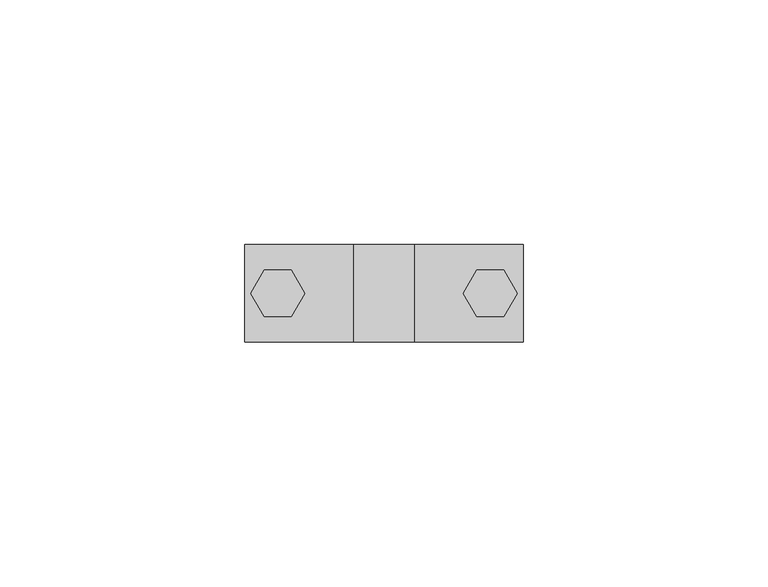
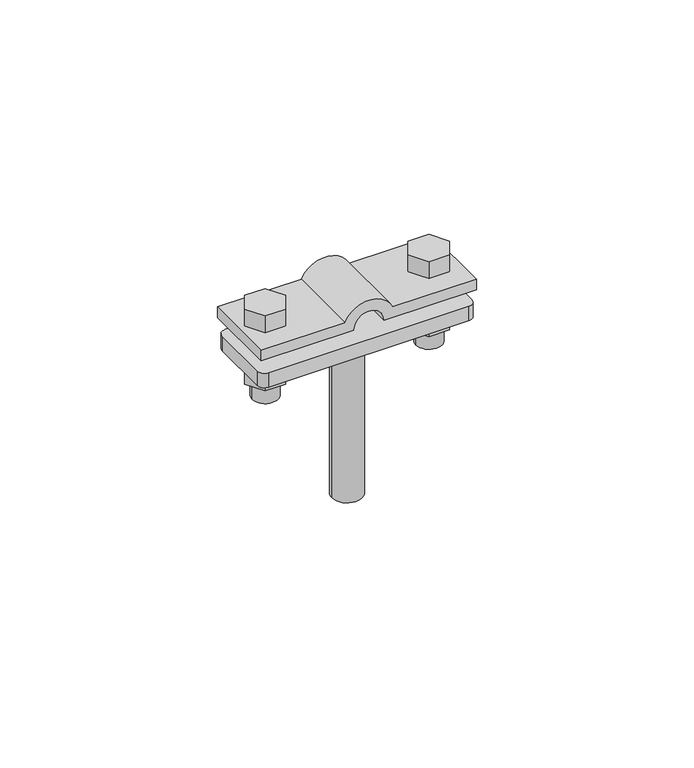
"""IFC4 building model written with IfcOpenShell, lengths in millimetres: proxy geometry, КНС_ДержательПруткаНаИзоляционнуюШтангу_DKC : NF0001_Гальванически оцинкованнная сталь."""

from ifc_helpers import new_model, si_unit, point, frame, frame_2d, origin, origin_with_axes, origin_2d, place, context, project, spatial, polyline, circle_curve, trimmed, segment, composite_curve, outline, extrude, source, transform, mapped, element, save


def security_devices_2c1e61c4(model_context):
    return source(origin(), model_context, "Body", "SweptSolid", [
        extrude(outline(composite_curve([segment(trimmed(circle_curve(origin_2d(), 4.0), [point((-4.0, 0.0))], [point((4.0, 0.0))], False, "CARTESIAN"), True, "CONTINUOUS"), segment(trimmed(circle_curve(origin_2d(), 4.0), [point((4.0, 0.0))], [point((-4.0, 0.0))], False, "CARTESIAN"), True, "CONTINUOUS")], self_intersect=False)), origin_with_axes(), (0.0, 0.0, 1.0), 45.0),
        extrude(outline(composite_curve([segment(polyline([(56.0, -28.5), (53.0, -28.5), (53.0, -4.0)]), True, "CONTINUOUS"), segment(trimmed(circle_curve(frame_2d((53.0, 0.0)), 4.0), [point((53.0, -4.0))], [point((53.0, 4.0))], True, "CARTESIAN"), True, "CONTINUOUS"), segment(polyline([(53.0, 4.0), (53.0, 28.5), (56.0, 28.5), (56.0, 6.3245553)]), True, "CONTINUOUS"), segment(trimmed(circle_curve(frame_2d((53.0, 0.0)), 7.0), [point((56.0, 6.3245553))], [point((56.0, -6.3245553))], False, "CARTESIAN"), True, "CONTINUOUS"), segment(polyline([(56.0, -6.3245553), (56.0, -28.5)]), True, "CONTINUOUS")], self_intersect=False)), frame((0.0, -10.0, 0.0), z_axis=(0.0, 1.0, 0.0), x_axis=(0.0, 0.0, 1.0)), (0.0, 0.0, 1.0), 20.0),
        extrude(outline(composite_curve([segment(trimmed(circle_curve(frame_2d((-21.7121057, 0.0)), 3.4209609), [point((-25.1330666, 0.0))], [point((-18.2911448, 0.0))], False, "CARTESIAN"), True, "CONTINUOUS"), segment(trimmed(circle_curve(frame_2d((-21.7121057, 0.0)), 3.4209609), [point((-18.2911448, 0.0))], [point((-25.1330666, 0.0))], False, "CARTESIAN"), True, "CONTINUOUS")], self_intersect=False)), frame((0.0, 0.0, 35.0), z_axis=(0.0, 0.0, 1.0), x_axis=(1.0, 0.0, 0.0)), (0.0, 0.0, 1.0), 18.0),
        extrude(outline(composite_curve([segment(trimmed(circle_curve(frame_2d((21.7121057, 0.0)), 3.4209609), [point((18.2911448, 0.0))], [point((25.1330666, 0.0))], False, "CARTESIAN"), True, "CONTINUOUS"), segment(trimmed(circle_curve(frame_2d((21.7121057, 0.0)), 3.4209609), [point((25.1330666, 0.0))], [point((18.2911448, 0.0))], False, "CARTESIAN"), True, "CONTINUOUS")], self_intersect=False)), frame((0.0, 0.0, 35.0), z_axis=(0.0, 0.0, 1.0), x_axis=(1.0, 0.0, 0.0)), (0.0, 0.0, 1.0), 18.0),
        extrude(outline(polyline([(-27.1996224, 0.0), (-24.455864, 4.7523289), (-18.9683473, 4.7523289), (-16.224589, 0.0), (-18.9683473, -4.7523289), (-24.455864, -4.7523289), (-27.1996224, 0.0)])), frame((0.0, 0.0, 40.0), z_axis=(0.0, 0.0, 1.0), x_axis=(1.0, 0.0, 0.0)), (0.0, 0.0, 1.0), 5.0),
        extrude(outline(polyline([(27.1996224, 0.0), (24.455864, -4.7523289), (18.9683473, -4.7523289), (16.224589, 0.0), (18.9683473, 4.7523289), (24.455864, 4.7523289), (27.1996224, 0.0)])), frame((0.0, 0.0, 40.0), z_axis=(0.0, 0.0, 1.0), x_axis=(1.0, 0.0, 0.0)), (0.0, 0.0, 1.0), 5.0),
        extrude(outline(polyline([(-27.1996224, 0.0), (-24.455864, 4.7523289), (-18.9683473, 4.7523289), (-16.224589, 0.0), (-18.9683473, -4.7523289), (-24.455864, -4.7523289), (-27.1996224, 0.0)])), frame((0.0, 0.0, 56.0), z_axis=(0.0, 0.0, 1.0), x_axis=(1.0, 0.0, 0.0)), (0.0, 0.0, 1.0), 5.0),
        extrude(outline(polyline([(27.1996224, 0.0), (24.455864, -4.7523289), (18.9683473, -4.7523289), (16.224589, 0.0), (18.9683473, 4.7523289), (24.455864, 4.7523289), (27.1996224, 0.0)])), frame((0.0, 0.0, 56.0), z_axis=(0.0, 0.0, 1.0), x_axis=(1.0, 0.0, 0.0)), (0.0, 0.0, 1.0), 5.0),
        extrude(outline(composite_curve([segment(trimmed(circle_curve(frame_2d((26.5, 8.0)), 2.0), [point((26.5, 10.0))], [point((28.5, 8.0))], False, "CARTESIAN"), True, "CONTINUOUS"), segment(polyline([(28.5, 8.0), (28.5, -8.0)]), True, "CONTINUOUS"), segment(trimmed(circle_curve(frame_2d((26.5, -8.0)), 2.0), [point((28.5, -8.0))], [point((26.5, -10.0))], False, "CARTESIAN"), True, "CONTINUOUS"), segment(polyline([(26.5, -10.0), (-26.5, -10.0)]), True, "CONTINUOUS"), segment(trimmed(circle_curve(frame_2d((-26.5, -8.0)), 2.0), [point((-26.5, -10.0))], [point((-28.5, -8.0))], False, "CARTESIAN"), True, "CONTINUOUS"), segment(polyline([(-28.5, -8.0), (-28.5, 8.0)]), True, "CONTINUOUS"), segment(trimmed(circle_curve(frame_2d((-26.5, 8.0)), 2.0), [point((-28.5, 8.0))], [point((-26.5, 10.0))], False, "CARTESIAN"), True, "CONTINUOUS"), segment(polyline([(-26.5, 10.0), (26.5, 10.0)]), True, "CONTINUOUS")], self_intersect=False)), frame((0.0, 0.0, 45.0), z_axis=(0.0, 0.0, 1.0), x_axis=(1.0, 0.0, 0.0)), (0.0, 0.0, 1.0), 4.0),
    ])


if __name__ == "__main__":
    model = new_model("IFC4")
    model_context = context("Model", 3, world=origin())
    ifc_project = project(units=[si_unit("LENGTHUNIT", "METRE", prefix="MILLI")], contexts=[model_context])
    site = spatial("IfcSite", under=ifc_project)
    building = spatial("IfcBuilding", under=site)
    placement = place(None, origin())
    security_devices_shape = security_devices_2c1e61c4(model_context)
    element("IfcBuildingElementProxy", 1, Name="КНС_ДержательПруткаНаИзоляционнуюШтангу_DKC : NF0001_Гальванически оцинкованнная сталь", ObjectType="КНС_ДержательПруткаНаИзоляционнуюШтангу_DKC : NF0001_Гальванически оцинкованнная сталь", at=placement, inside=building, context=model_context, shape_type="MappedRepresentation", body=[
        mapped(security_devices_shape, transform((0.0, 0.0, 0.0), x_axis=(1.0, 0.0, 0.0), y_axis=(0.0, 1.0, 0.0), z_axis=(0.0, 0.0, 1.0))),
    ])
    save(model, "model.ifc")
